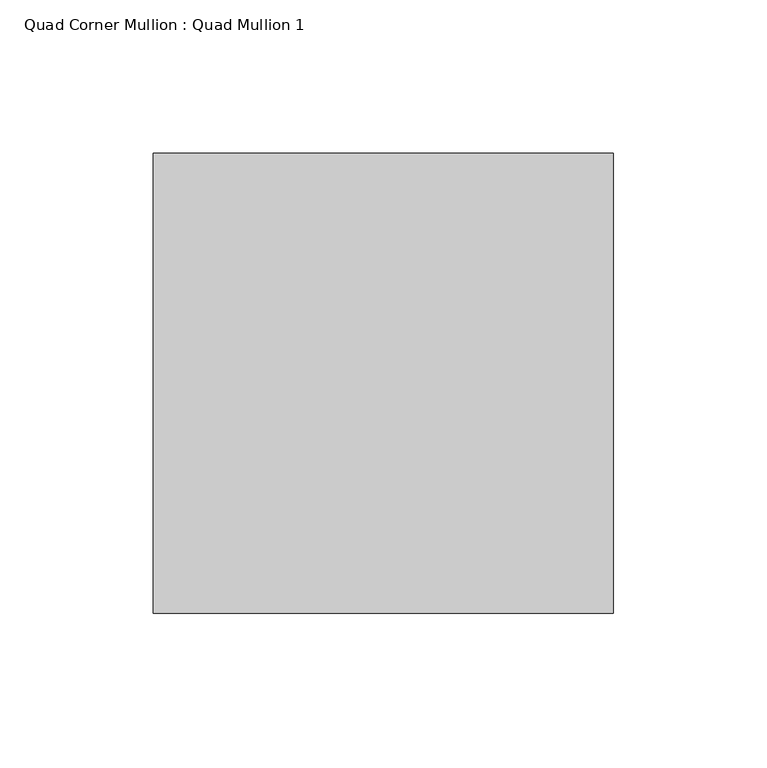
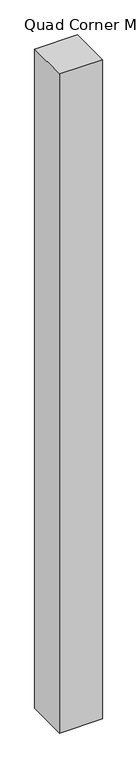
"""IFC4 building model written with IfcOpenShell, lengths in millimetres: member geometry, Quad Corner Mullion : Quad Mullion 1."""

from ifc_helpers import new_model, si_unit, frame, origin, place, context, project, spatial, polyline, outline, extrude, source, transform, mapped, element, save


def quad_corner_mullion_quad_mullion_1_bcb46a8a(model_context):
    return source(origin(), model_context, "Body", "SweptSolid", [
        extrude(outline(polyline([(75.0, 75.0), (75.0, -75.0), (-75.0, -75.0), (-75.0, 75.0), (75.0, 75.0)])), frame((0.0, 0.0, -2438.4), z_axis=(0.0, 0.0, 1.0), x_axis=(1.0, 0.0, 0.0)), (0.0, 0.0, 1.0), 2438.4),
    ])


if __name__ == "__main__":
    model = new_model("IFC4")
    model_context = context("Model", 3, world=origin())
    ifc_project = project(units=[si_unit("LENGTHUNIT", "METRE", prefix="MILLI")], contexts=[model_context])
    site = spatial("IfcSite", under=ifc_project)
    building = spatial("IfcBuilding", under=site)
    placement = place(None, origin())
    quad_corner_mullion_quad_mullion_1_shape = quad_corner_mullion_quad_mullion_1_bcb46a8a(model_context)
    element("IfcMember", 1, ObjectType="Quad Corner Mullion : Quad Mullion 1", at=placement, inside=building, context=model_context, shape_type="MappedRepresentation", body=[
        mapped(quad_corner_mullion_quad_mullion_1_shape, transform((0.0, 0.0, 0.0), x_axis=(1.0, 0.0, 0.0), y_axis=(0.0, 1.0, 0.0), z_axis=(0.0, 0.0, 1.0))),
    ])
    save(model, "model.ifc")
